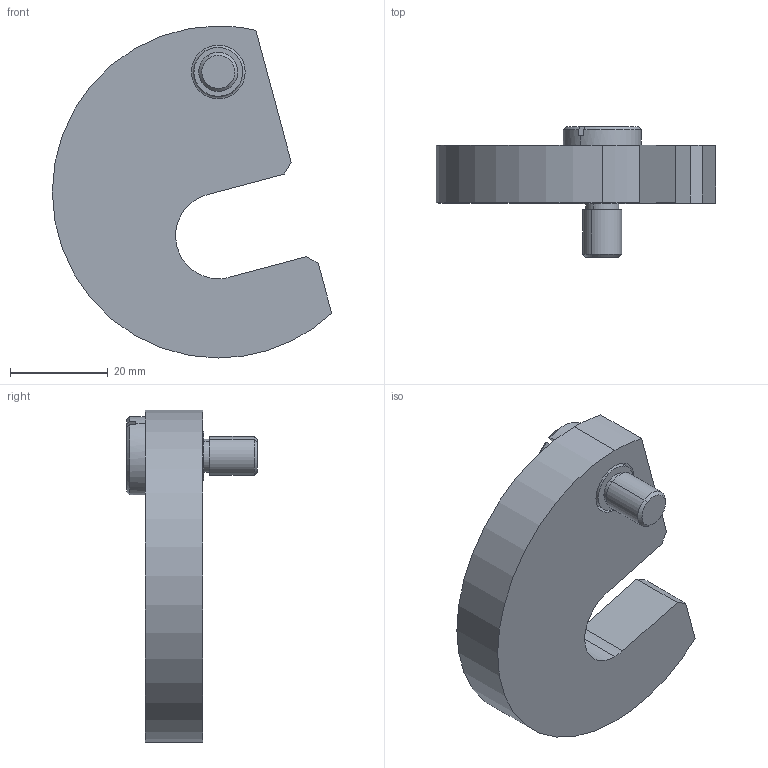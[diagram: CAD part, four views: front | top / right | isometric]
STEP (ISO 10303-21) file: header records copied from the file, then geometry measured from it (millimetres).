
FILE_DESCRIPTION (( 'STEP AP203' ), '1' );
FILE_NAME ('Default.step', '2009-12-03T10:13:48', ( 'Wixroyd' ), ( 'Wixroyd' ), 'SwSTEP 2.0', 'SolidWorks 2009', '' );
FILE_SCHEMA (( 'CONFIG_CONTROL_DESIGN' ));
Length unit declared in the file: millimetre
Products named in the file (3): Part2; Default; Part1
Assembly tree (2 placements, depth 2):
  Default
    Part1
    Part2
Bounding box: 57.22 x 26.8 x 68 mm (x, y, z)
Volume: 29596.6 mm3; surface area: 9226.6 mm2
Topology: 2 solids, 2 shells, 38 faces, 89 edges, 58 vertices
Faces by surface type: plane 17, cylinder 15, cone 4, torus 2
Entity records: 1416 total; most frequent: DIRECTION 213, CARTESIAN_POINT 202, ORIENTED_EDGE 178, EDGE_CURVE 89, AXIS2_PLACEMENT_3D 85, VERTEX_POINT 58, EDGE_LOOP 43, LINE 43
